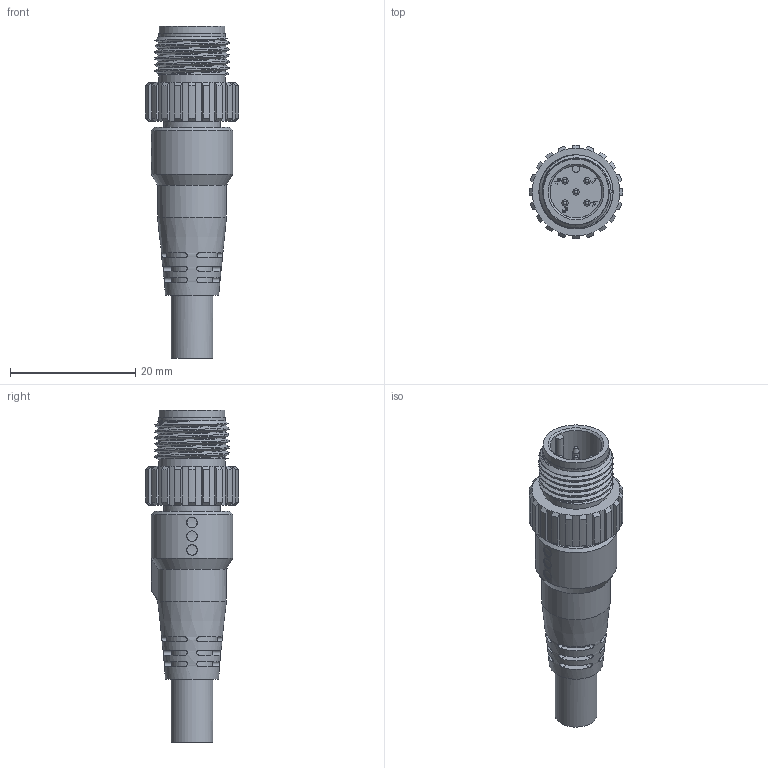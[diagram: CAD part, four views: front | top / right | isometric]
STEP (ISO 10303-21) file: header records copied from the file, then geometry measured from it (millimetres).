
FILE_DESCRIPTION (( 'STEP AP203' ), '1' );
FILE_NAME ('CM02B-8DJ5P-xxx.STEP', '2022-04-08T09:37:23', ( '' ), ( '' ), 'SwSTEP 2.0', 'SolidWorks 2018', '' );
FILE_SCHEMA (( 'CONFIG_CONTROL_DESIGN' ));
Length unit declared in the file: millimetre
Products named in the file (1): CM02B-8DJ5P-xxx
Bounding box: 15 x 15 x 53 mm (x, y, z)
Volume: 4431.7 mm3; surface area: 2851.2 mm2
Topology: 1 solids, 1 shells, 313 faces, 753 edges, 474 vertices
Faces by surface type: plane 117, cylinder 94, cone 51, bspline 46, sphere 5
Full cylindrical faces by diameter (mm): 1.01 x5, 6.7 x1, 8.3 x1, 9.1 x1, 10.5 x1, 10.6 x2, 13 x1
Entity records: 12080 total; most frequent: CARTESIAN_POINT 5322, ORIENTED_EDGE 1434, DIRECTION 1233, EDGE_CURVE 717, AXIS2_PLACEMENT_3D 476, VERTEX_POINT 462, EDGE_LOOP 369, FACE_OUTER_BOUND 328
